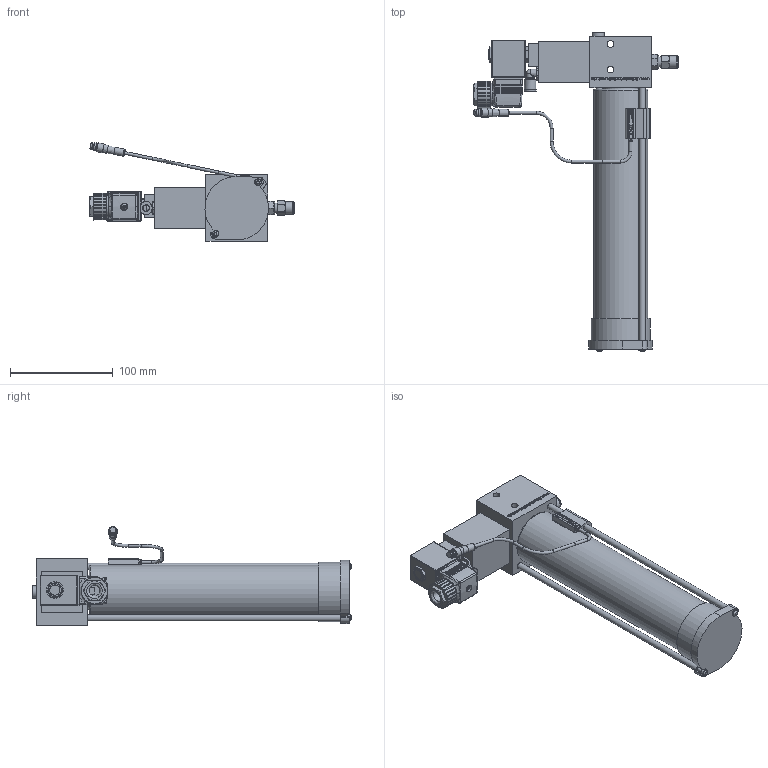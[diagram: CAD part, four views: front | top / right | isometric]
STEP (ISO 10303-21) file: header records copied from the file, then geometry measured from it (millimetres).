
FILE_DESCRIPTION (( 'STEP AP214' ), '1' );
FILE_NAME ('1430_0106_02sX_XXX.STEP', '2026-04-29T09:29:58', ( '' ), ( '' ), 'SwSTEP 2.0', 'SolidWorks 2022', '' );
FILE_SCHEMA (( 'AUTOMOTIVE_DESIGN' ));
Length unit declared in the file: millimetre
Products named in the file (14): DPF_Luftverschraubung; DPF_Pumpenkoerper; 04E33_1801_MAGNETSPULE_FORM-A; DPF_Sensor; 3D-LEITUNG_MIT_M8-STECKER_S071327_M8-MARKETINGMODELL_2D9; 1430_0106_02sX_XXX; Klemmteil_Lubeshutle; Lubeshuttle_Kartusche; DPF_70_Ankerstange; TRO_Magnetventil_Stecker; DPF_distantsscheibeibe_1; RZT7-2_kurz^3D-MARKETINGMODELL_S257244_Standard; DPF_10_1; DPF_DECKEL_Kartusche
Assembly tree (15 placements, depth 3):
  1430_0106_02sX_XXX
    DPF_Pumpenkoerper
    DPF_70_Ankerstange  x2
    Lubeshuttle_Kartusche
    DPF_DECKEL_Kartusche
    DPF_distantsscheibeibe_1
    Klemmteil_Lubeshutle
    DPF_Sensor
      RZT7-2_kurz^3D-MARKETINGMODELL_S257244_Standard
      3D-LEITUNG_MIT_M8-STECKER_S071327_M8-MARKETINGMODELL_2D9
    DPF_Luftverschraubung
    04E33_1801_MAGNETSPULE_FORM-A
    DPF_10_1  x2
    TRO_Magnetventil_Stecker
Bounding box: 199.22 x 311.5 x 96.49 mm (x, y, z)
Volume: 933174.6 mm3; surface area: 131876.7 mm2
Topology: 14 solids, 14 shells, 1181 faces, 3094 edges, 2006 vertices
Faces by surface type: plane 687, cylinder 244, bspline 194, cone 37, torus 17, sphere 2
Full cylindrical faces by diameter (mm): 1.47 x1, 1.5 x3, 1.6 x1, 2.5 x1, 2.9 x5, 3.5 x2, 4 x2, 6 x7, 6.2 x1, 6.25 x1, 6.5 x2, 6.6 x2, 6.75 x1, 6.9 x1, 7 x2, 8 x2, 8.5 x2, 8.8 x1, 9.5 x2, 10 x3, 10.3 x1, 10.5 x1, 11.2 x1, 12 x3, 16 x1, 16.345 x1, 22 x1, 30 x1, 53 x2, 58 x1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
Entity records: 49621 total; most frequent: CARTESIAN_POINT 18586, ORIENTED_EDGE 5824, DIRECTION 4939, EDGE_CURVE 2912, VERTEX_POINT 1945, VECTOR 1929, LINE 1929, AXIS2_PLACEMENT_3D 1505
